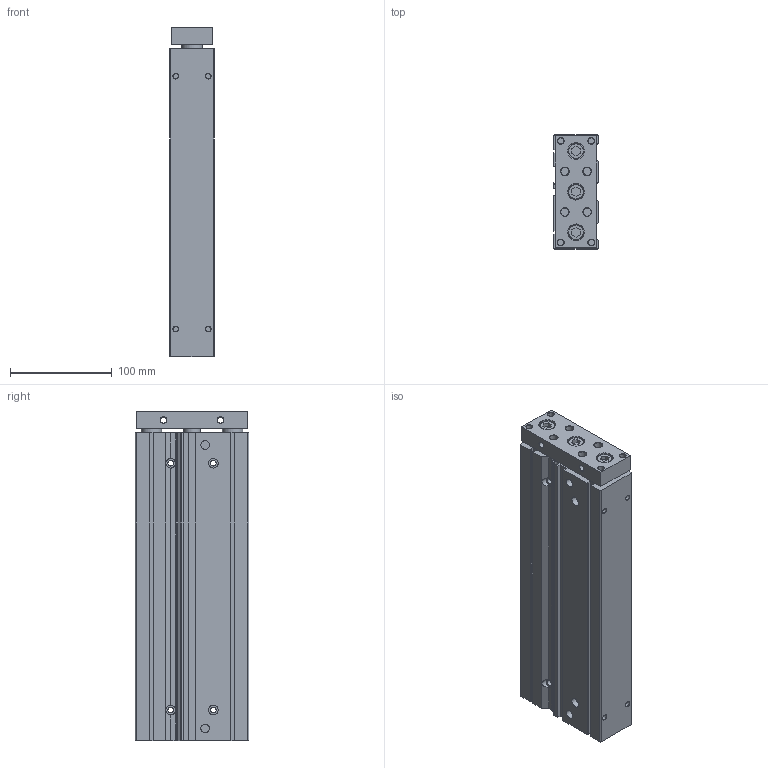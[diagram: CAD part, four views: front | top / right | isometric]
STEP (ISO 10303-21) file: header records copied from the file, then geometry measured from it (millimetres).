
FILE_DESCRIPTION((''),'2;1');
FILE_NAME('Z:\3D電子目錄\氣缸\TB(U)\TB(U)32\TB(U)32\TB32X250.stp','2011-09-22T10:50:49',('admin'),(''),'Autodesk Inventor 2012','Autodesk Inventor 2012','');
FILE_SCHEMA(('AUTOMOTIVE_DESIGN { 1 0 10303 214 1 1 1 1 }'));
Length unit declared in the file: millimetre
Products named in the file (1): TB32X250
Bounding box: 44 x 112 x 324 mm (x, y, z)
Volume: 1467155.3 mm3; surface area: 149217.1 mm2
Topology: 1 solids, 1 shells, 206 faces, 462 edges, 294 vertices
Faces by surface type: plane 110, cylinder 56, cone 37, torus 3
Full cylindrical faces by diameter (mm): 5 x8, 5.5 x4, 6 x10, 8 x4, 8.5 x2, 9.5 x8, 15 x3, 16 x4, 20 x4, 28 x2, 34 x1
Entity records: 5348 total; most frequent: DIRECTION 944, CARTESIAN_POINT 873, ORIENTED_EDGE 744, EDGE_CURVE 372, AXIS2_PLACEMENT_3D 365, EDGE_LOOP 364, VERTEX_POINT 294, VECTOR 214
